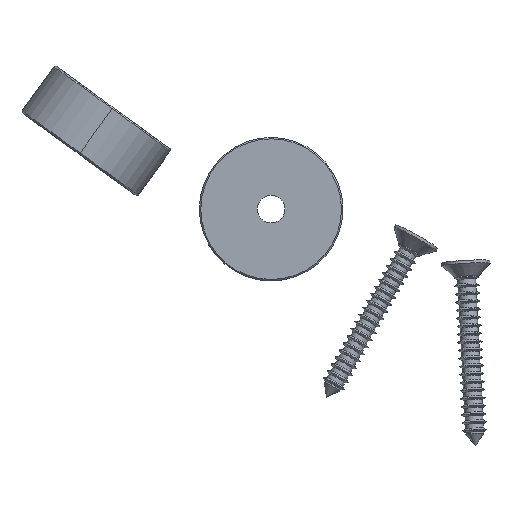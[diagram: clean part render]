
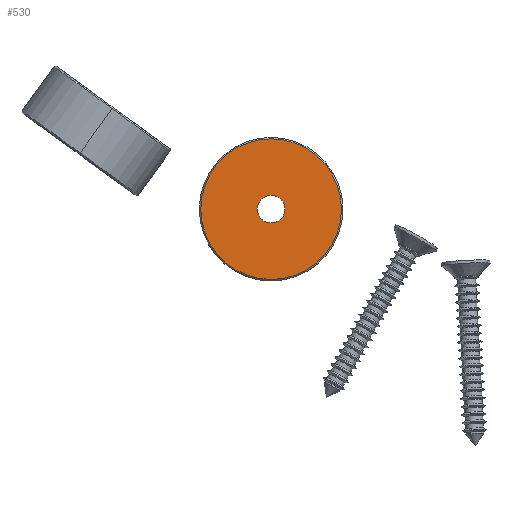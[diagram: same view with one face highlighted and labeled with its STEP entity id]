
A CAD part, front view. The second image highlights one B-rep face of the part: STEP entity #530.
In plain terms, the highlighted planar face has unit normal (0, -1, 0).
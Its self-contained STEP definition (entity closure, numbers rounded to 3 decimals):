
#162 = EDGE_LOOP ( 'NONE', ( #5483, #3397 ) ) ;
#392 = VERTEX_POINT ( 'NONE', #1628 ) ;
#444 = VERTEX_POINT ( 'NONE', #1319 ) ;
#482 = DIRECTION ( 'NONE',  ( 0., 0., 1. ) ) ;
#496 = PLANE ( 'NONE',  #5234 ) ;
#530 = ADVANCED_FACE ( 'NONE', ( #1371, #4361 ), #496, .F. ) ;
#655 = DIRECTION ( 'NONE',  ( 0., -1., 0. ) ) ;
#706 = DIRECTION ( 'NONE',  ( 0., -1., 0. ) ) ;
#1082 = DIRECTION ( 'NONE',  ( 0., 1., 0. ) ) ;
#1157 = EDGE_CURVE ( 'NONE', #444, #392, #4188, .T. ) ;
#1166 = AXIS2_PLACEMENT_3D ( 'NONE', #2316, #655, #2340 ) ;
#1319 = CARTESIAN_POINT ( 'NONE',  ( 0., 0., -2.4 ) ) ;
#1371 = FACE_OUTER_BOUND ( 'NONE', #3975, .T. ) ;
#1496 = CARTESIAN_POINT ( 'NONE',  ( 0., 0., 0. ) ) ;
#1628 = CARTESIAN_POINT ( 'NONE',  ( 0., 0., 2.4 ) ) ;
#1801 = DIRECTION ( 'NONE',  ( 0., 1., 0. ) ) ;
#1882 = AXIS2_PLACEMENT_3D ( 'NONE', #1888, #1801, #482 ) ;
#1888 = CARTESIAN_POINT ( 'NONE',  ( 0., 0., 0. ) ) ;
#2221 = CARTESIAN_POINT ( 'NONE',  ( 0., 0., 0. ) ) ;
#2316 = CARTESIAN_POINT ( 'NONE',  ( 0., 0., 0. ) ) ;
#2319 = AXIS2_PLACEMENT_3D ( 'NONE', #4889, #1082, #2770 ) ;
#2327 = EDGE_CURVE ( 'NONE', #2980, #3140, #4258, .T. ) ;
#2340 = DIRECTION ( 'NONE',  ( 0., 0., 1. ) ) ;
#2494 = CIRCLE ( 'NONE', #4892, 12.2 ) ;
#2770 = DIRECTION ( 'NONE',  ( 0., 0., 1. ) ) ;
#2980 = VERTEX_POINT ( 'NONE', #4438 ) ;
#3018 = DIRECTION ( 'NONE',  ( 0., 0., 1. ) ) ;
#3140 = VERTEX_POINT ( 'NONE', #4238 ) ;
#3397 = ORIENTED_EDGE ( 'NONE', *, *, #1157, .T. ) ;
#3975 = EDGE_LOOP ( 'NONE', ( #4536, #4178 ) ) ;
#4178 = ORIENTED_EDGE ( 'NONE', *, *, #5408, .T. ) ;
#4188 = CIRCLE ( 'NONE', #2319, 2.4 ) ;
#4238 = CARTESIAN_POINT ( 'NONE',  ( 0., 0., -12.2 ) ) ;
#4258 = CIRCLE ( 'NONE', #1166, 12.2 ) ;
#4361 = FACE_BOUND ( 'NONE', #162, .T. ) ;
#4438 = CARTESIAN_POINT ( 'NONE',  ( 0., 0., 12.2 ) ) ;
#4536 = ORIENTED_EDGE ( 'NONE', *, *, #2327, .T. ) ;
#4723 = DIRECTION ( 'NONE',  ( 0., 1., 0. ) ) ;
#4889 = CARTESIAN_POINT ( 'NONE',  ( 0., 0., 0. ) ) ;
#4892 = AXIS2_PLACEMENT_3D ( 'NONE', #1496, #706, #5334 ) ;
#5195 = EDGE_CURVE ( 'NONE', #392, #444, #5440, .T. ) ;
#5234 = AXIS2_PLACEMENT_3D ( 'NONE', #2221, #4723, #3018 ) ;
#5334 = DIRECTION ( 'NONE',  ( 0., 0., 1. ) ) ;
#5408 = EDGE_CURVE ( 'NONE', #3140, #2980, #2494, .T. ) ;
#5440 = CIRCLE ( 'NONE', #1882, 2.4 ) ;
#5483 = ORIENTED_EDGE ( 'NONE', *, *, #5195, .T. ) ;
